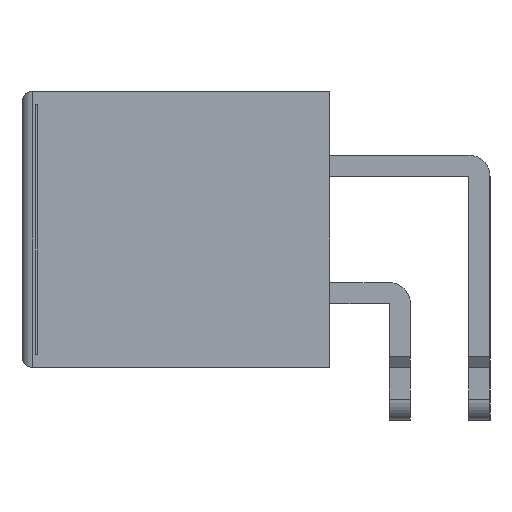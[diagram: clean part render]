
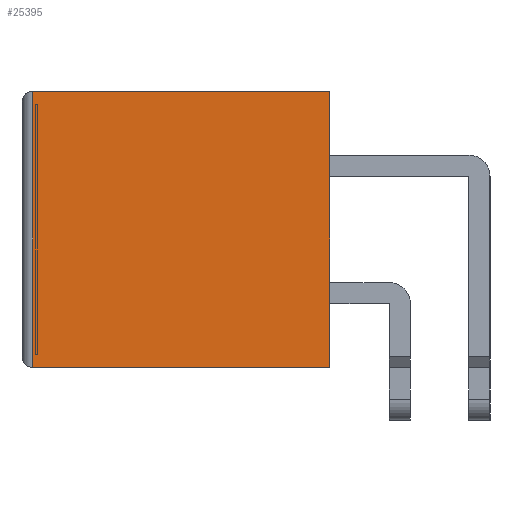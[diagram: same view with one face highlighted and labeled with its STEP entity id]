
A CAD part, left-side view. The second image highlights one B-rep face of the part: STEP entity #25395.
In plain terms, the highlighted planar face has unit normal (-1, 0, 0).
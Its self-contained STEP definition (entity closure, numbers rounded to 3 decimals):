
#2678=VERTEX_POINT('',#37923);
#2679=VERTEX_POINT('',#37927);
#2683=VERTEX_POINT('',#37939);
#2684=VERTEX_POINT('',#37941);
#5273=VECTOR('',#29770,1.);
#5277=VECTOR('',#29781,1.);
#5278=VECTOR('',#29782,1.);
#5279=VECTOR('',#29783,1.);
#7902=LINE('',#37926,#5273);
#7906=LINE('',#37938,#5277);
#7907=LINE('',#37940,#5278);
#7908=LINE('',#37942,#5279);
#11127=EDGE_CURVE('',#2679,#2678,#7902,.T.);
#11133=EDGE_CURVE('',#2679,#2683,#7906,.T.);
#11134=EDGE_CURVE('',#2683,#2684,#7907,.T.);
#11135=EDGE_CURVE('',#2684,#2678,#7908,.T.);
#16608=ORIENTED_EDGE('',*,*,#11127,.F.);
#16609=ORIENTED_EDGE('',*,*,#11133,.T.);
#16610=ORIENTED_EDGE('',*,*,#11134,.T.);
#16611=ORIENTED_EDGE('',*,*,#11135,.T.);
#22301=EDGE_LOOP('',(#16608,#16609,#16610,#16611));
#23869=FACE_BOUND('',#22301,.T.);
#25395=ADVANCED_FACE('',(#23869),#43044,.F.);
#26779=AXIS2_PLACEMENT_3D('',#37937,#29780,$);
#29770=DIRECTION('',(0.,0.,1.));
#29780=DIRECTION('',(1.,0.,0.));
#29781=DIRECTION('',(0.,-1.,0.));
#29782=DIRECTION('',(0.,0.,1.));
#29783=DIRECTION('',(0.,1.,0.));
#37923=CARTESIAN_POINT('',(0.,28.,0.));
#37926=CARTESIAN_POINT('',(0.,28.,-13.));
#37927=CARTESIAN_POINT('',(0.,28.,-26.));
#37937=CARTESIAN_POINT('',(0.,14.5,-13.));
#37938=CARTESIAN_POINT('',(0.,29.,-26.));
#37939=CARTESIAN_POINT('',(0.,0.,-26.));
#37940=CARTESIAN_POINT('',(0.,0.,-26.));
#37941=CARTESIAN_POINT('',(0.,0.,0.));
#37942=CARTESIAN_POINT('',(0.,0.,0.));
#43044=PLANE('',#26779);
